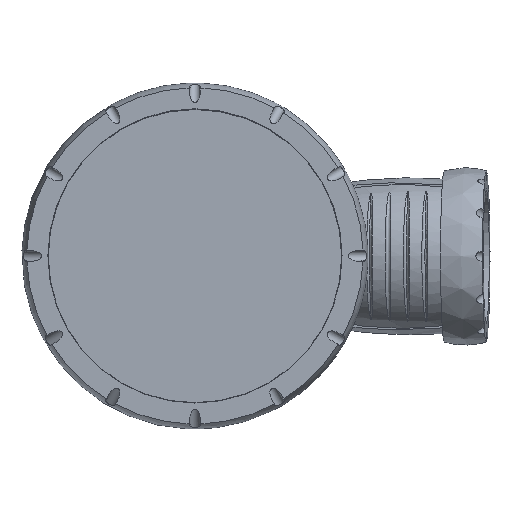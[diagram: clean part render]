
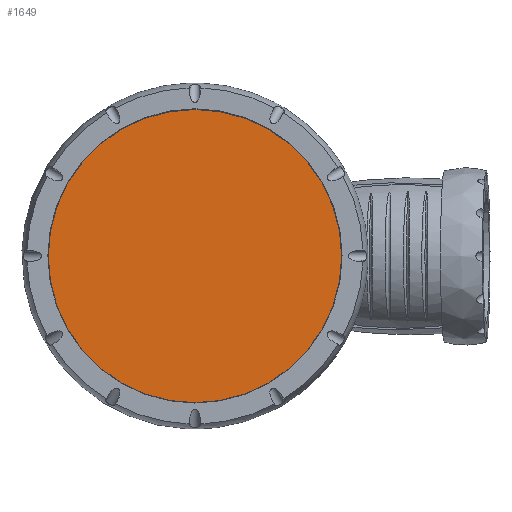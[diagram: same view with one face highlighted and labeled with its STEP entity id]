
A CAD part, top view. The second image highlights one B-rep face of the part: STEP entity #1649.
In plain terms, the highlighted planar face has unit normal (0, 0, 1).
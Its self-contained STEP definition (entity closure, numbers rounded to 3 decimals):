
#223=PLANE('',#1783);
#302=FACE_OUTER_BOUND('',#412,.T.);
#412=EDGE_LOOP('',(#1063));
#551=CIRCLE('',#1784,55.5);
#629=VERTEX_POINT('',#2409);
#807=EDGE_CURVE('',#629,#629,#551,.T.);
#1063=ORIENTED_EDGE('',*,*,#807,.T.);
#1649=ADVANCED_FACE('',(#302),#223,.T.);
#1783=AXIS2_PLACEMENT_3D('',#2408,#1986,#1987);
#1784=AXIS2_PLACEMENT_3D('',#2410,#1988,#1989);
#1986=DIRECTION('center_axis',(0.,0.,
1.));
#1987=DIRECTION('ref_axis',(0.,1.,0.));
#1988=DIRECTION('center_axis',(0.,0.,
1.));
#1989=DIRECTION('ref_axis',(0.,1.,0.));
#2408=CARTESIAN_POINT('Origin',(0.,0.,
132.5));
#2409=CARTESIAN_POINT('',(-55.5,0.,132.5));
#2410=CARTESIAN_POINT('Origin',(0.,0.,
132.5));
